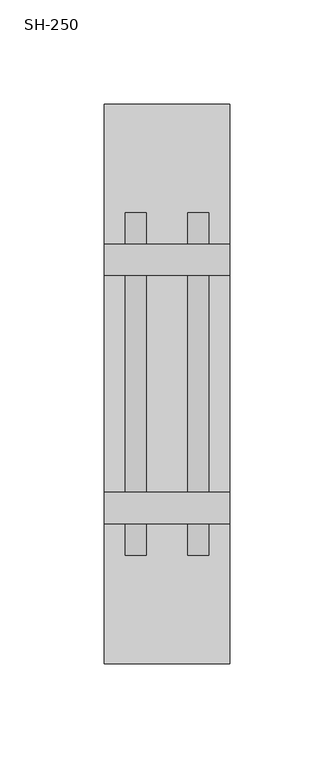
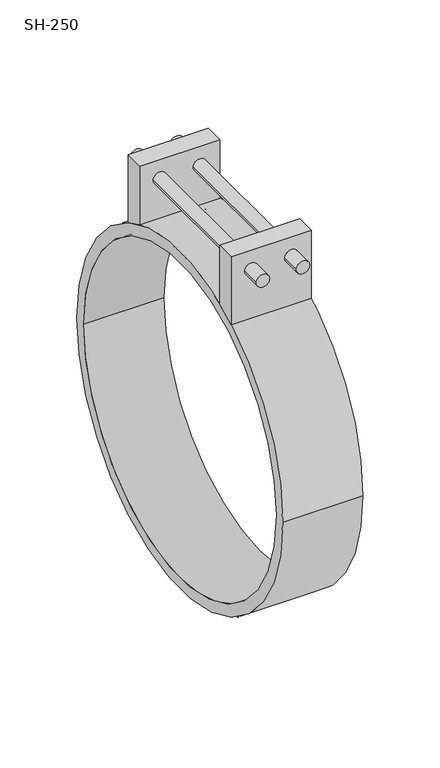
"""IFC4 building model written with IfcOpenShell, lengths in millimetres: duct fitting geometry, СВ_Хомут_Круглый_DN100-315_SH : SH-250."""

from ifc_helpers import new_model, si_unit, point, frame, origin, origin_2d, place, context, project, spatial, polyline, circle_curve, trimmed, segment, composite_curve, outline, extrude, source, transform, mapped, element, save
from ifc_brep_helpers import plane_surface, cylinder_surface, revolved_surface, advanced_brep


def sh_250_80032faf(model_context):
    return source(origin(), model_context, "Body", "SolidModel", [
        advanced_brep(
        [(30.0, 67.0, 170.0), (30.0, 52.0, 170.0), (30.0, 52.0, 123.4989879), (30.0, 67.0, 116.0474041), (30.0, -52.0, 170.0), (30.0, -67.0, 170.0), (30.0, -67.0, 116.0474041), (30.0, -52.0, 123.4989879), (-30.0, 52.0, 170.0), (-30.0, 67.0, 170.0), (-30.0, 67.0, 116.0474041), (-30.0, 52.0, 123.4989879), (-30.0, -67.0, 170.0), (-30.0, -52.0, 170.0), (-30.0, -52.0, 123.4989879), (-30.0, -67.0, 116.0474041), (-20.0, 67.0, 155.0), (-10.0, 67.0, 155.0), (10.0, 67.0, 155.0), (20.0, 67.0, 155.0), (-10.0, 52.0, 155.0), (-20.0, 52.0, 155.0), (20.0, 52.0, 155.0), (10.0, 52.0, 155.0), (-20.0, -52.0, 155.0), (-10.0, -52.0, 155.0), (10.0, -52.0, 155.0), (20.0, -52.0, 155.0), (-10.0, -67.0, 155.0), (-20.0, -67.0, 155.0), (20.0, -67.0, 155.0), (10.0, -67.0, 155.0), (-20.0, -82.0, 155.0), (-10.0, -82.0, 155.0), (10.0, -82.0, 155.0), (20.0, -82.0, 155.0), (-20.0, 82.0, 155.0), (-10.0, 82.0, 155.0), (10.0, 82.0, 155.0), (20.0, 82.0, 155.0)],
        [
            (0, 1),
            (1, 2),
            (2, 3, circle_curve(frame((30.0, 0.0, 0.0), z_axis=(-1.0, 0.0, 0.0), x_axis=(0.0, 1.0, 0.0)), 134.0)),
            (3, 0),
            (4, 5),
            (5, 6),
            (6, 7, circle_curve(frame((30.0, 0.0, 0.0), z_axis=(-1.0, 0.0, 0.0), x_axis=(0.0, 1.0, 0.0)), 134.0)),
            (7, 4),
            (8, 9),
            (9, 10),
            (10, 11, circle_curve(frame((-30.0, 0.0, 0.0), z_axis=(1.0, 0.0, 0.0), x_axis=(0.0, 1.0, 0.0)), 134.0)),
            (11, 8),
            (12, 13),
            (13, 14),
            (14, 15, circle_curve(frame((-30.0, 0.0, 0.0), z_axis=(1.0, 0.0, 0.0), x_axis=(0.0, 1.0, 0.0)), 134.0)),
            (15, 12),
            (9, 0),
            (3, 10),
            (16, 17, circle_curve(frame((-15.0, 67.0, 155.0), z_axis=(0.0, -1.0, 0.0), x_axis=(1.0, 0.0, 0.0)), 5.0)),
            (17, 16, circle_curve(frame((-15.0, 67.0, 155.0), z_axis=(0.0, -1.0, 0.0), x_axis=(1.0, 0.0, 0.0)), 5.0)),
            (18, 19, circle_curve(frame((15.0, 67.0, 155.0), z_axis=(0.0, -1.0, 0.0), x_axis=(1.0, 0.0, 0.0)), 5.0)),
            (19, 18, circle_curve(frame((15.0, 67.0, 155.0), z_axis=(0.0, -1.0, 0.0), x_axis=(1.0, 0.0, 0.0)), 5.0)),
            (8, 1),
            (11, 2),
            (20, 21, circle_curve(frame((-15.0, 52.0, 155.0), z_axis=(0.0, 1.0, 0.0), x_axis=(1.0, 0.0, 0.0)), 5.0)),
            (21, 20, circle_curve(frame((-15.0, 52.0, 155.0), z_axis=(0.0, 1.0, 0.0), x_axis=(1.0, 0.0, 0.0)), 5.0)),
            (22, 23, circle_curve(frame((15.0, 52.0, 155.0), z_axis=(0.0, 1.0, 0.0), x_axis=(1.0, 0.0, 0.0)), 5.0)),
            (23, 22, circle_curve(frame((15.0, 52.0, 155.0), z_axis=(0.0, 1.0, 0.0), x_axis=(1.0, 0.0, 0.0)), 5.0)),
            (13, 4),
            (7, 14),
            (24, 25, circle_curve(frame((-15.0, -52.0, 155.0), z_axis=(0.0, -1.0, 0.0), x_axis=(1.0, 0.0, 0.0)), 5.0)),
            (25, 24, circle_curve(frame((-15.0, -52.0, 155.0), z_axis=(0.0, -1.0, 0.0), x_axis=(1.0, 0.0, 0.0)), 5.0)),
            (26, 27, circle_curve(frame((15.0, -52.0, 155.0), z_axis=(0.0, -1.0, 0.0), x_axis=(1.0, 0.0, 0.0)), 5.0)),
            (27, 26, circle_curve(frame((15.0, -52.0, 155.0), z_axis=(0.0, -1.0, 0.0), x_axis=(1.0, 0.0, 0.0)), 5.0)),
            (12, 5),
            (15, 6),
            (28, 29, circle_curve(frame((-15.0, -67.0, 155.0), z_axis=(0.0, 1.0, 0.0), x_axis=(1.0, 0.0, 0.0)), 5.0)),
            (29, 28, circle_curve(frame((-15.0, -67.0, 155.0), z_axis=(0.0, 1.0, 0.0), x_axis=(1.0, 0.0, 0.0)), 5.0)),
            (30, 31, circle_curve(frame((15.0, -67.0, 155.0), z_axis=(0.0, 1.0, 0.0), x_axis=(1.0, 0.0, 0.0)), 5.0)),
            (31, 30, circle_curve(frame((15.0, -67.0, 155.0), z_axis=(0.0, 1.0, 0.0), x_axis=(1.0, 0.0, 0.0)), 5.0)),
            (32, 33, circle_curve(frame((-15.0, -82.0, 155.0), z_axis=(0.0, -1.0, 0.0), x_axis=(1.0, 0.0, 0.0)), 5.0)),
            (33, 32, circle_curve(frame((-15.0, -82.0, 155.0), z_axis=(0.0, -1.0, 0.0), x_axis=(1.0, 0.0, 0.0)), 5.0)),
            (34, 35, circle_curve(frame((15.0, -82.0, 155.0), z_axis=(0.0, -1.0, 0.0), x_axis=(1.0, 0.0, 0.0)), 5.0)),
            (35, 34, circle_curve(frame((15.0, -82.0, 155.0), z_axis=(0.0, -1.0, 0.0), x_axis=(1.0, 0.0, 0.0)), 5.0)),
            (36, 37, circle_curve(frame((-15.0, 82.0, 155.0), z_axis=(0.0, 1.0, 0.0), x_axis=(1.0, 0.0, 0.0)), 5.0)),
            (37, 36, circle_curve(frame((-15.0, 82.0, 155.0), z_axis=(0.0, 1.0, 0.0), x_axis=(1.0, 0.0, 0.0)), 5.0)),
            (38, 39, circle_curve(frame((15.0, 82.0, 155.0), z_axis=(0.0, 1.0, 0.0), x_axis=(1.0, 0.0, 0.0)), 5.0)),
            (39, 38, circle_curve(frame((15.0, 82.0, 155.0), z_axis=(0.0, 1.0, 0.0), x_axis=(1.0, 0.0, 0.0)), 5.0)),
            (32, 29),
            (28, 33),
            (37, 17),
            (16, 36),
            (24, 21),
            (20, 25),
            (34, 31),
            (30, 35),
            (39, 19),
            (18, 38),
            (26, 23),
            (22, 27),
        ],
        [
            plane_surface(frame((30.0, 67.0, 170.0), z_axis=(1.0, 0.0, 0.0), x_axis=(0.0, 0.0, 1.0))),
            plane_surface(frame((-30.0, 67.0, 170.0), z_axis=(-1.0, 0.0, 0.0), x_axis=(0.0, 0.0, -1.0))),
            plane_surface(frame((30.0, 67.0, 0.0), z_axis=(0.0, 1.0, 0.0), x_axis=(-1.0, 0.0, 0.0))),
            plane_surface(frame((30.0, 67.0, 170.0), z_axis=(0.0, 0.0, 1.0), x_axis=(-1.0, 0.0, 0.0))),
            plane_surface(frame((30.0, 52.0, 170.0), z_axis=(0.0, -1.0, 0.0), x_axis=(-1.0, 0.0, 0.0))),
            plane_surface(frame((30.0, -52.0, 0.0), z_axis=(0.0, 1.0, 0.0), x_axis=(-1.0, 0.0, 0.0))),
            plane_surface(frame((30.0, -52.0, 170.0), z_axis=(0.0, 0.0, 1.0), x_axis=(-1.0, 0.0, 0.0))),
            plane_surface(frame((30.0, -67.0, 170.0), z_axis=(0.0, -1.0, 0.0), x_axis=(-1.0, 0.0, 0.0))),
            revolved_surface(polyline([(30.0, 134.0, 0.0), (-30.0, 134.0, 0.0)]), (-30.0, 0.0, 0.0), (1.0, 0.0, 0.0)),
            plane_surface(frame((-10.0, -82.0, 155.0), z_axis=(0.0, -1.0, 0.0), x_axis=(0.0, 0.0, 1.0))),
            plane_surface(frame((-10.0, 82.0, 155.0), z_axis=(0.0, 1.0, 0.0), x_axis=(0.0, 0.0, -1.0))),
            cylinder_surface(frame((-15.0, 82.0, 155.0), z_axis=(0.0, -1.0, 0.0), x_axis=(1.0, 0.0, 0.0)), 5.0),
            cylinder_surface(frame((15.0, 0.0, 155.0), z_axis=(0.0, -1.0, 0.0), x_axis=(1.0, 0.0, 0.0)), 5.0),
        ],
        [
            (0, [[1, 2, 3, 4]]),
            (0, [[5, 6, 7, 8]]),
            (1, [[9, 10, 11, 12]]),
            (1, [[13, 14, 15, 16]]),
            (2, [[17, -4, 18, -10], [19, 20], [21, 22]]),
            (3, [[-1, -17, -9, 23]]),
            (4, [[-23, -12, 24, -2], [25, 26], [27, 28]]),
            (5, [[29, -8, 30, -14], [31, 32], [33, 34]]),
            (6, [[-5, -29, -13, 35]]),
            (7, [[-35, -16, 36, -6], [37, 38], [39, 40]]),
            (8, [[-3, -24, -11, -18]]),
            (8, [[-7, -36, -15, -30]]),
            (9, [[41, 42]]),
            (9, [[43, 44]]),
            (10, [[45, 46]]),
            (10, [[47, 48]]),
            (11, [[-41, 49, -37, 50]]),
            (11, [[-46, 51, -19, 52]]),
            (11, [[53, -25, 54, -31]]),
            (11, [[-42, -50, -38, -49]]),
            (11, [[-45, -52, -20, -51]]),
            (11, [[-53, -32, -54, -26]]),
            (12, [[-43, 55, -39, 56]]),
            (12, [[-48, 57, -21, 58]]),
            (12, [[59, -27, 60, -33]]),
            (12, [[-44, -56, -40, -55]]),
            (12, [[-47, -58, -22, -57]]),
            (12, [[-59, -34, -60, -28]]),
        ],
    ),
        extrude(outline(composite_curve([segment(trimmed(circle_curve(origin_2d(), 134.0), [point((-134.0, 0.0))], [point((134.0, 0.0))], False, "CARTESIAN"), True, "CONTINUOUS"), segment(trimmed(circle_curve(origin_2d(), 134.0), [point((134.0, 0.0))], [point((-134.0, 0.0))], False, "CARTESIAN"), True, "CONTINUOUS")], self_intersect=False), holes=[composite_curve([segment(trimmed(circle_curve(origin_2d(), 125.0), [point((-125.0, 0.0))], [point((125.0, 0.0))], True, "CARTESIAN"), True, "CONTINUOUS"), segment(trimmed(circle_curve(origin_2d(), 125.0), [point((125.0, 0.0))], [point((-125.0, 0.0))], True, "CARTESIAN"), True, "CONTINUOUS")], self_intersect=False)]), frame((-30.0, 0.0, 0.0), z_axis=(1.0, 0.0, 0.0), x_axis=(0.0, 1.0, 0.0)), (0.0, 0.0, 1.0), 60.0),
    ])


if __name__ == "__main__":
    model = new_model("IFC4")
    model_context = context("Model", 3, world=origin())
    ifc_project = project(units=[si_unit("LENGTHUNIT", "METRE", prefix="MILLI")], contexts=[model_context])
    site = spatial("IfcSite", under=ifc_project)
    building = spatial("IfcBuilding", under=site)
    placement = place(None, origin())
    sh_250_shape = sh_250_80032faf(model_context)
    element("IfcDuctFitting", 1, ObjectType="СВ_Хомут_Круглый_DN100-315_SH : SH-250", at=placement, inside=building, context=model_context, shape_type="MappedRepresentation", body=[
        mapped(sh_250_shape, transform((0.0, 0.0, 0.0), x_axis=(1.0, 0.0, 0.0), y_axis=(0.0, 1.0, 0.0), z_axis=(0.0, 0.0, 1.0))),
    ])
    save(model, "model.ifc")
